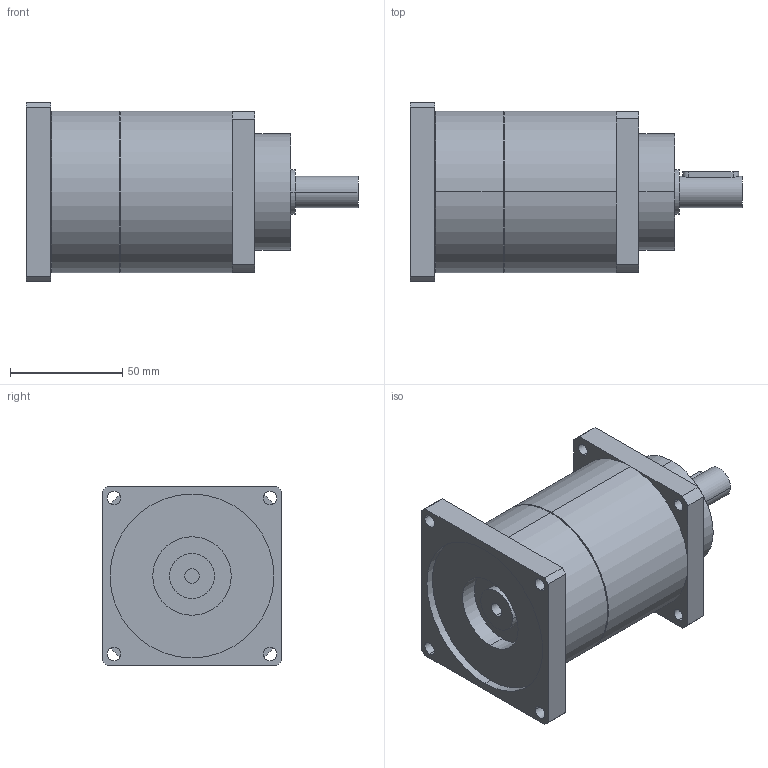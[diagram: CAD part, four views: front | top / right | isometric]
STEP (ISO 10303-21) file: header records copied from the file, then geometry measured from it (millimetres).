
FILE_DESCRIPTION(('CoCreate Modeling STEP Export'),'2;1');
FILE_NAME('GPT75_ig-9-12-16-20-25-28-35-40-50-70-100_14_B5T_6.35_P06.stp','2014-08-27T13:38:37',(''),(''),'CoCreate Modeling STEP processor for AP214 (Solid Model)','CoCreate Modeling 16.00C 25-Feb-2009 (C) Parametric Technology GmbH','');
FILE_SCHEMA(('AUTOMOTIVE_DESIGN { 1 0 10303 214 1 1 1 1 }'));
Length unit declared in the file: millimetre
Products named in the file (2): GPT75_ig-9-12-16-20-25-28-35-40-50-70-100_14_B5T_6.35_P06
Assembly tree (1 placements, depth 2):
  GPT75_ig-9-12-16-20-25-28-35-40-50-70-100_14_B5T_6.35_P06
    GPT75_ig-9-12-16-20-25-28-35-40-50-70-100_14_B5T_6.35_P06
Bounding box: 148 x 80 x 80 mm (x, y, z)
Volume: 466587.7 mm3; surface area: 47736.2 mm2
Topology: 1 solids, 1 shells, 77 faces, 194 edges, 129 vertices
Faces by surface type: cylinder 46, plane 27, cone 4
Entity records: 2484 total; most frequent: CARTESIAN_POINT 719, ORIENTED_EDGE 388, DIRECTION 320, EDGE_CURVE 194, VERTEX_POINT 129, AXIS2_PLACEMENT_3D 118, EDGE_LOOP 103, VECTOR 84
